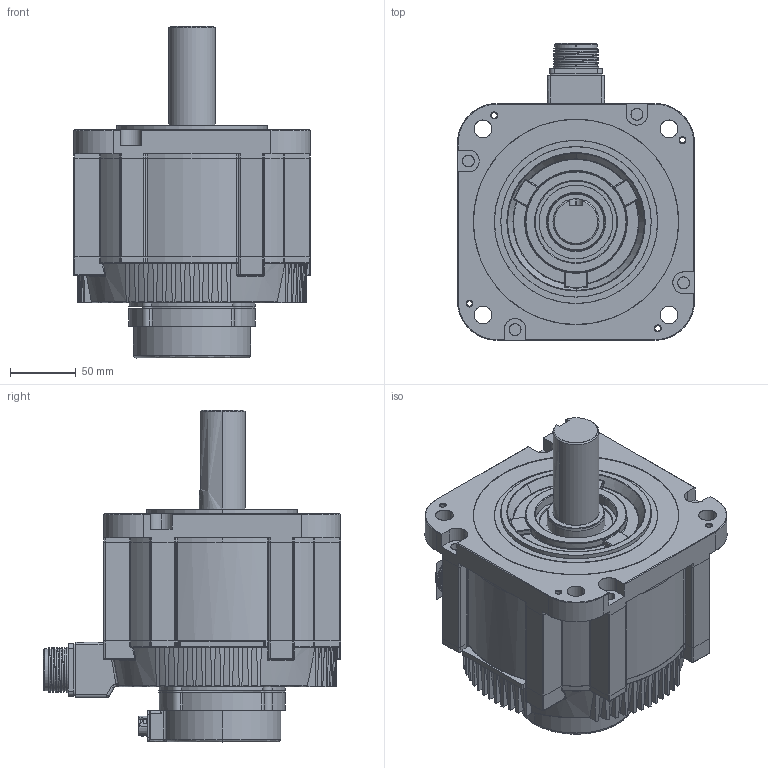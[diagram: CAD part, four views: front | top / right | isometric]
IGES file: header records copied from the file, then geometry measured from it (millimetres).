
Start section: SolidWorks IGES file using analytic representation for surfaces
Global section: file name: C:\Users\11755\Desktop\騰禾380V\外型圖\SMP系列_馬達外型圖(客戶版)\3D-IGES\SMP-H290.IGS; native system: SolidWorks 2016; preprocessor: SolidWorks 2016; author: 11755; date: 210504.135143; units: millimetre
Bounding box: 180 x 225.8 x 252.3 mm (x, y, z)
Surface area: 252489.1 mm2 (no closed solid volume)
Topology: 0 solids, 0 shells, 1033 faces, 12233 edges, 12205 vertices
Faces by surface type: revolution 541, bspline 492
